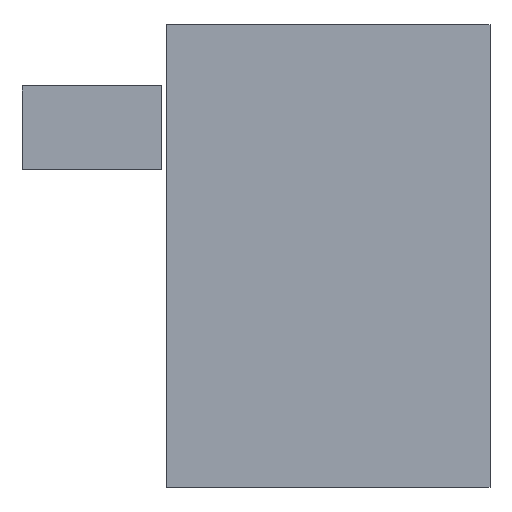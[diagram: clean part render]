
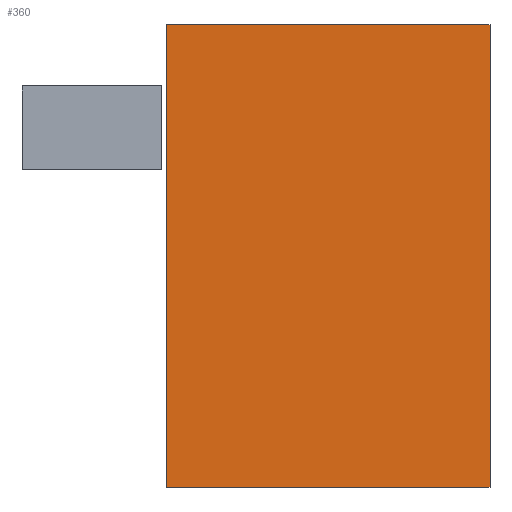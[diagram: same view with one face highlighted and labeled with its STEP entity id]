
A CAD part, top view. The second image highlights one B-rep face of the part: STEP entity #360.
In plain terms, the highlighted planar face has unit normal (0, 0, 1).
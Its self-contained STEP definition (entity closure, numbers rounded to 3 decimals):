
#46 = VERTEX_POINT('',#47);
#47 = CARTESIAN_POINT('',(-29.,-41.5,2.5));
#54 = PLANE('',#55);
#55 = AXIS2_PLACEMENT_3D('',#56,#57,#58);
#56 = CARTESIAN_POINT('',(-29.,-41.5,-2.5));
#57 = DIRECTION('',(1.,0.,-0.));
#58 = DIRECTION('',(0.,0.,1.));
#66 = PLANE('',#67);
#67 = AXIS2_PLACEMENT_3D('',#68,#69,#70);
#68 = CARTESIAN_POINT('',(-29.,-41.5,-2.5));
#69 = DIRECTION('',(-0.,1.,0.));
#70 = DIRECTION('',(0.,0.,1.));
#107 = VERTEX_POINT('',#108);
#108 = CARTESIAN_POINT('',(-29.,41.5,2.5));
#122 = PLANE('',#123);
#123 = AXIS2_PLACEMENT_3D('',#124,#125,#126);
#124 = CARTESIAN_POINT('',(-29.,41.5,-2.5));
#125 = DIRECTION('',(-0.,1.,0.));
#126 = DIRECTION('',(0.,0.,1.));
#134 = EDGE_CURVE('',#46,#107,#135,.T.);
#135 = SURFACE_CURVE('',#136,(#140,#147),.PCURVE_S1.);
#136 = LINE('',#137,#138);
#137 = CARTESIAN_POINT('',(-29.,-41.5,2.5));
#138 = VECTOR('',#139,1.);
#139 = DIRECTION('',(-0.,1.,0.));
#140 = PCURVE('',#54,#141);
#141 = DEFINITIONAL_REPRESENTATION('',(#142),#146);
#142 = LINE('',#143,#144);
#143 = CARTESIAN_POINT('',(5.,0.));
#144 = VECTOR('',#145,1.);
#145 = DIRECTION('',(0.,-1.));
#146 = ( GEOMETRIC_REPRESENTATION_CONTEXT(2) 
PARAMETRIC_REPRESENTATION_CONTEXT() REPRESENTATION_CONTEXT('2D SPACE',''
  ) );
#147 = PCURVE('',#148,#153);
#148 = PLANE('',#149);
#149 = AXIS2_PLACEMENT_3D('',#150,#151,#152);
#150 = CARTESIAN_POINT('',(-29.,-41.5,2.5));
#151 = DIRECTION('',(0.,0.,1.));
#152 = DIRECTION('',(1.,0.,-0.));
#153 = DEFINITIONAL_REPRESENTATION('',(#154),#158);
#154 = LINE('',#155,#156);
#155 = CARTESIAN_POINT('',(0.,0.));
#156 = VECTOR('',#157,1.);
#157 = DIRECTION('',(0.,1.));
#158 = ( GEOMETRIC_REPRESENTATION_CONTEXT(2) 
PARAMETRIC_REPRESENTATION_CONTEXT() REPRESENTATION_CONTEXT('2D SPACE',''
  ) );
#166 = VERTEX_POINT('',#167);
#167 = CARTESIAN_POINT('',(29.,-41.5,2.5));
#174 = PLANE('',#175);
#175 = AXIS2_PLACEMENT_3D('',#176,#177,#178);
#176 = CARTESIAN_POINT('',(29.,-41.5,-2.5));
#177 = DIRECTION('',(1.,0.,-0.));
#178 = DIRECTION('',(0.,0.,1.));
#217 = VERTEX_POINT('',#218);
#218 = CARTESIAN_POINT('',(29.,41.5,2.5));
#239 = EDGE_CURVE('',#166,#217,#240,.T.);
#240 = SURFACE_CURVE('',#241,(#245,#252),.PCURVE_S1.);
#241 = LINE('',#242,#243);
#242 = CARTESIAN_POINT('',(29.,-41.5,2.5));
#243 = VECTOR('',#244,1.);
#244 = DIRECTION('',(-0.,1.,0.));
#245 = PCURVE('',#174,#246);
#246 = DEFINITIONAL_REPRESENTATION('',(#247),#251);
#247 = LINE('',#248,#249);
#248 = CARTESIAN_POINT('',(5.,0.));
#249 = VECTOR('',#250,1.);
#250 = DIRECTION('',(0.,-1.));
#251 = ( GEOMETRIC_REPRESENTATION_CONTEXT(2) 
PARAMETRIC_REPRESENTATION_CONTEXT() REPRESENTATION_CONTEXT('2D SPACE',''
  ) );
#252 = PCURVE('',#148,#253);
#253 = DEFINITIONAL_REPRESENTATION('',(#254),#258);
#254 = LINE('',#255,#256);
#255 = CARTESIAN_POINT('',(58.,0.));
#256 = VECTOR('',#257,1.);
#257 = DIRECTION('',(0.,1.));
#258 = ( GEOMETRIC_REPRESENTATION_CONTEXT(2) 
PARAMETRIC_REPRESENTATION_CONTEXT() REPRESENTATION_CONTEXT('2D SPACE',''
  ) );
#285 = EDGE_CURVE('',#46,#166,#286,.T.);
#286 = SURFACE_CURVE('',#287,(#291,#298),.PCURVE_S1.);
#287 = LINE('',#288,#289);
#288 = CARTESIAN_POINT('',(-29.,-41.5,2.5));
#289 = VECTOR('',#290,1.);
#290 = DIRECTION('',(1.,0.,-0.));
#291 = PCURVE('',#66,#292);
#292 = DEFINITIONAL_REPRESENTATION('',(#293),#297);
#293 = LINE('',#294,#295);
#294 = CARTESIAN_POINT('',(5.,0.));
#295 = VECTOR('',#296,1.);
#296 = DIRECTION('',(0.,1.));
#297 = ( GEOMETRIC_REPRESENTATION_CONTEXT(2) 
PARAMETRIC_REPRESENTATION_CONTEXT() REPRESENTATION_CONTEXT('2D SPACE',''
  ) );
#298 = PCURVE('',#148,#299);
#299 = DEFINITIONAL_REPRESENTATION('',(#300),#304);
#300 = LINE('',#301,#302);
#301 = CARTESIAN_POINT('',(0.,0.));
#302 = VECTOR('',#303,1.);
#303 = DIRECTION('',(1.,0.));
#304 = ( GEOMETRIC_REPRESENTATION_CONTEXT(2) 
PARAMETRIC_REPRESENTATION_CONTEXT() REPRESENTATION_CONTEXT('2D SPACE',''
  ) );
#332 = EDGE_CURVE('',#107,#217,#333,.T.);
#333 = SURFACE_CURVE('',#334,(#338,#345),.PCURVE_S1.);
#334 = LINE('',#335,#336);
#335 = CARTESIAN_POINT('',(-29.,41.5,2.5));
#336 = VECTOR('',#337,1.);
#337 = DIRECTION('',(1.,0.,-0.));
#338 = PCURVE('',#122,#339);
#339 = DEFINITIONAL_REPRESENTATION('',(#340),#344);
#340 = LINE('',#341,#342);
#341 = CARTESIAN_POINT('',(5.,0.));
#342 = VECTOR('',#343,1.);
#343 = DIRECTION('',(0.,1.));
#344 = ( GEOMETRIC_REPRESENTATION_CONTEXT(2) 
PARAMETRIC_REPRESENTATION_CONTEXT() REPRESENTATION_CONTEXT('2D SPACE',''
  ) );
#345 = PCURVE('',#148,#346);
#346 = DEFINITIONAL_REPRESENTATION('',(#347),#351);
#347 = LINE('',#348,#349);
#348 = CARTESIAN_POINT('',(0.,83.));
#349 = VECTOR('',#350,1.);
#350 = DIRECTION('',(1.,0.));
#351 = ( GEOMETRIC_REPRESENTATION_CONTEXT(2) 
PARAMETRIC_REPRESENTATION_CONTEXT() REPRESENTATION_CONTEXT('2D SPACE',''
  ) );
#360 = ADVANCED_FACE('',(#361),#148,.T.);
#361 = FACE_BOUND('',#362,.T.);
#362 = EDGE_LOOP('',(#363,#364,#365,#366));
#363 = ORIENTED_EDGE('',*,*,#134,.F.);
#364 = ORIENTED_EDGE('',*,*,#285,.T.);
#365 = ORIENTED_EDGE('',*,*,#239,.T.);
#366 = ORIENTED_EDGE('',*,*,#332,.F.);
